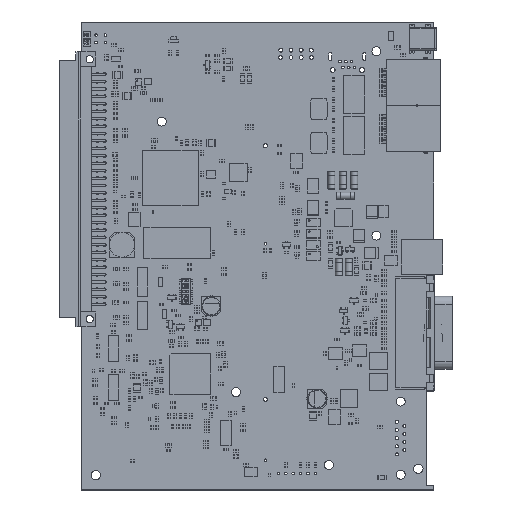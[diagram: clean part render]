
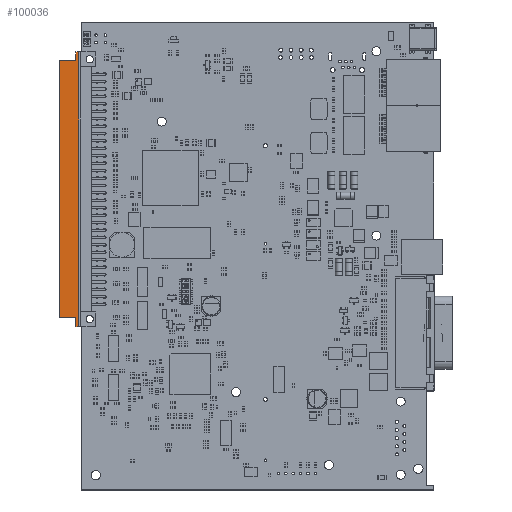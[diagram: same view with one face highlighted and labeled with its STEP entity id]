
A CAD part, top view. The second image highlights one B-rep face of the part: STEP entity #100036.
In plain terms, the highlighted planar face has unit normal (0, 0, 1).
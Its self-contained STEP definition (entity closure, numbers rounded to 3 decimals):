
#99343 = VERTEX_POINT('',#99344);
#99344 = CARTESIAN_POINT('',(-47.,0.3,4.3));
#99350 = EDGE_CURVE('',#99343,#99351,#99353,.T.);
#99351 = VERTEX_POINT('',#99352);
#99352 = CARTESIAN_POINT('',(47.,0.3,4.3));
#99353 = LINE('',#99354,#99355);
#99354 = CARTESIAN_POINT('',(0.,0.3,4.3));
#99355 = VECTOR('',#99356,1.);
#99356 = DIRECTION('',(1.,0.,0.));
#99558 = VERTEX_POINT('',#99559);
#99559 = CARTESIAN_POINT('',(-47.,-0.6,4.3));
#99565 = EDGE_CURVE('',#99558,#99343,#99566,.T.);
#99566 = LINE('',#99567,#99568);
#99567 = CARTESIAN_POINT('',(-47.,0.,4.3));
#99568 = VECTOR('',#99569,1.);
#99569 = DIRECTION('',(0.,1.,0.));
#100036 = ADVANCED_FACE('',(#100037),#100087,.T.);
#100037 = FACE_BOUND('',#100038,.T.);
#100038 = EDGE_LOOP('',(#100039,#100047,#100055,#100063,#100071,#100079,
    #100085,#100086));
#100039 = ORIENTED_EDGE('',*,*,#100040,.T.);
#100040 = EDGE_CURVE('',#99558,#100041,#100043,.T.);
#100041 = VERTEX_POINT('',#100042);
#100042 = CARTESIAN_POINT('',(-44.,-0.6,4.3));
#100043 = LINE('',#100044,#100045);
#100044 = CARTESIAN_POINT('',(-44.,-0.6,4.3));
#100045 = VECTOR('',#100046,1.);
#100046 = DIRECTION('',(1.,0.,0.));
#100047 = ORIENTED_EDGE('',*,*,#100048,.T.);
#100048 = EDGE_CURVE('',#100041,#100049,#100051,.T.);
#100049 = VERTEX_POINT('',#100050);
#100050 = CARTESIAN_POINT('',(-44.,-6.1,4.3));
#100051 = LINE('',#100052,#100053);
#100052 = CARTESIAN_POINT('',(-44.,-6.1,4.3));
#100053 = VECTOR('',#100054,1.);
#100054 = DIRECTION('',(0.,-1.,0.));
#100055 = ORIENTED_EDGE('',*,*,#100056,.T.);
#100056 = EDGE_CURVE('',#100049,#100057,#100059,.T.);
#100057 = VERTEX_POINT('',#100058);
#100058 = CARTESIAN_POINT('',(44.,-6.1,4.3));
#100059 = LINE('',#100060,#100061);
#100060 = CARTESIAN_POINT('',(-47.,-6.1,4.3));
#100061 = VECTOR('',#100062,1.);
#100062 = DIRECTION('',(1.,0.,0.));
#100063 = ORIENTED_EDGE('',*,*,#100064,.T.);
#100064 = EDGE_CURVE('',#100057,#100065,#100067,.T.);
#100065 = VERTEX_POINT('',#100066);
#100066 = CARTESIAN_POINT('',(44.,-0.6,4.3));
#100067 = LINE('',#100068,#100069);
#100068 = CARTESIAN_POINT('',(44.,-0.6,4.3));
#100069 = VECTOR('',#100070,1.);
#100070 = DIRECTION('',(0.,1.,0.));
#100071 = ORIENTED_EDGE('',*,*,#100072,.T.);
#100072 = EDGE_CURVE('',#100065,#100073,#100075,.T.);
#100073 = VERTEX_POINT('',#100074);
#100074 = CARTESIAN_POINT('',(47.,-0.6,4.3));
#100075 = LINE('',#100076,#100077);
#100076 = CARTESIAN_POINT('',(47.,-0.6,4.3));
#100077 = VECTOR('',#100078,1.);
#100078 = DIRECTION('',(1.,0.,0.));
#100079 = ORIENTED_EDGE('',*,*,#100080,.T.);
#100080 = EDGE_CURVE('',#100073,#99351,#100081,.T.);
#100081 = LINE('',#100082,#100083);
#100082 = CARTESIAN_POINT('',(47.,-6.1,4.3));
#100083 = VECTOR('',#100084,1.);
#100084 = DIRECTION('',(0.,1.,0.));
#100085 = ORIENTED_EDGE('',*,*,#99350,.F.);
#100086 = ORIENTED_EDGE('',*,*,#99565,.F.);
#100087 = PLANE('',#100088);
#100088 = AXIS2_PLACEMENT_3D('',#100089,#100090,#100091);
#100089 = CARTESIAN_POINT('',(0.,0.,4.3));
#100090 = DIRECTION('',(0.,0.,1.));
#100091 = DIRECTION('',(1.,0.,0.));
